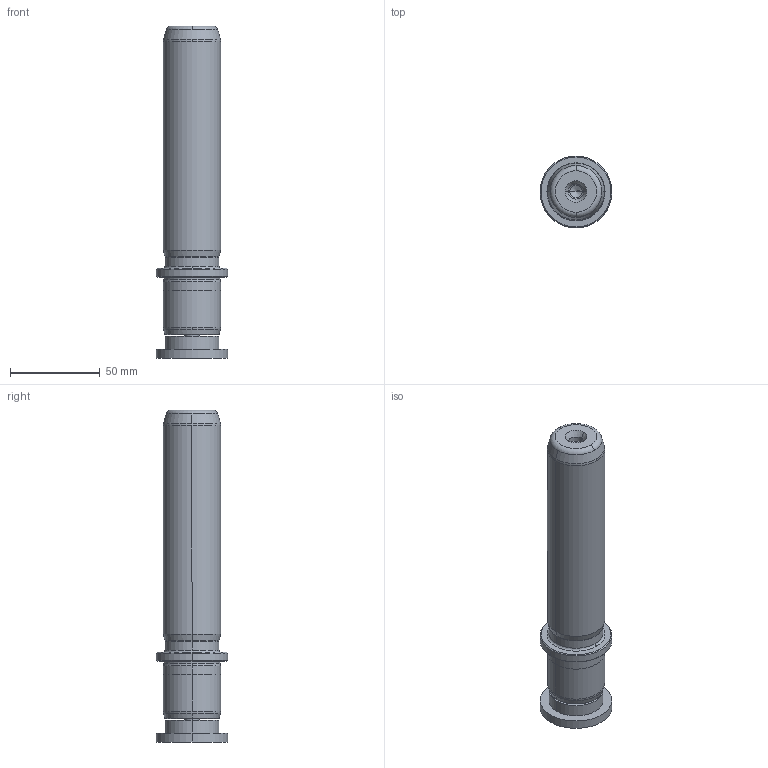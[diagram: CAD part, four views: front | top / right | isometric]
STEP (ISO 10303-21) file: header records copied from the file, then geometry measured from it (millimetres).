
FILE_DESCRIPTION((''),'2;1');
FILE_NAME('P22_032_140.stp','2009-02-03T14:01:17',(''),(''),'Mechanical Desktop 2009','Mechanical Desktop 2009',', , ');
FILE_SCHEMA(('CONFIG_CONTROL_DESIGN'));
Length unit declared in the file: millimetre
Products named in the file (2): Product; blmdl1
Assembly tree (1 placements, depth 2):
  Product
    blmdl1
Bounding box: 40 x 40 x 185 mm (x, y, z)
Volume: 147914.9 mm3; surface area: 25879.9 mm2
Topology: 3 solids, 3 shells, 99 faces, 237 edges, 149 vertices
Faces by surface type: cylinder 32, cone 28, plane 19, torus 10, bspline 10
Entity records: 3419 total; most frequent: CARTESIAN_POINT 923, DIRECTION 570, ORIENTED_EDGE 466, AXIS2_PLACEMENT_3D 246, EDGE_CURVE 233, CIRCLE 155, VERTEX_POINT 149, EDGE_LOOP 110
